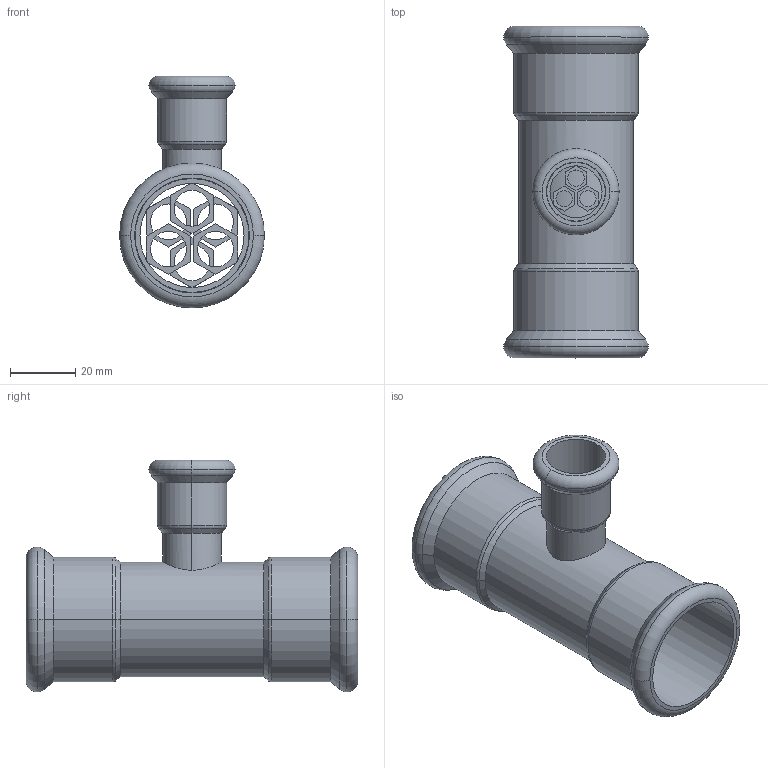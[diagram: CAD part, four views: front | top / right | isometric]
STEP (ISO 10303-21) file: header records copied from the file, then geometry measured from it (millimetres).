
FILE_DESCRIPTION(('OneSpaceDesigner STEP Export'),'2;1');
FILE_NAME('R2715 35x18x35.stp','2010-06-10T 9:02:52',(''),(''),'OneSpace Designer STEP processor for AP214 (Solid Model)','OneSpace Modeling 15.00A 14-Mar-2007 (C) CoCreate Software GmbH','');
FILE_SCHEMA(('AUTOMOTIVE_DESIGN { 1 0 10303 214 1 1 1 1 }'));
Length unit declared in the file: millimetre
Products named in the file (2): R2715_35x18x35
Assembly tree (1 placements, depth 2):
  R2715_35x18x35
    R2715_35x18x35
Bounding box: 44.55 x 102 x 71.28 mm (x, y, z)
Volume: 27298.1 mm3; surface area: 31132.2 mm2
Topology: 1 solids, 1 shells, 174 faces, 429 edges, 274 vertices
Faces by surface type: plane 90, cylinder 54, torus 18, cone 12
Entity records: 5584 total; most frequent: CARTESIAN_POINT 1747, ORIENTED_EDGE 858, DIRECTION 683, EDGE_CURVE 429, VERTEX_POINT 274, VECTOR 263, LINE 263, EDGE_LOOP 211
